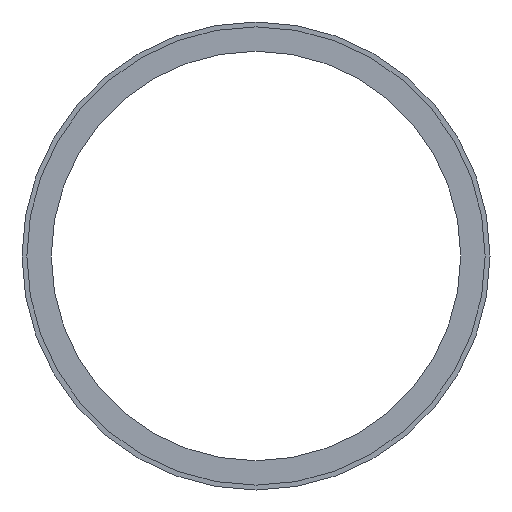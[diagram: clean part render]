
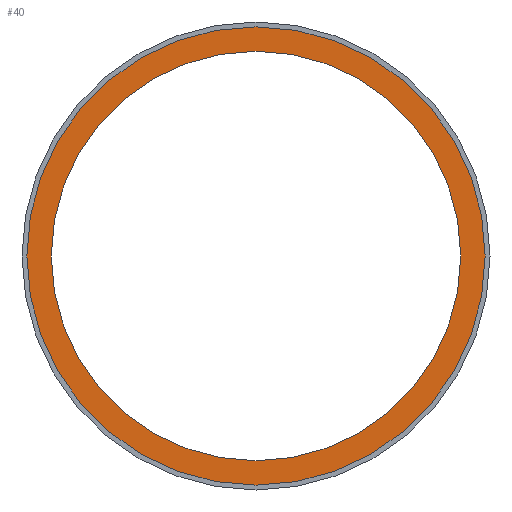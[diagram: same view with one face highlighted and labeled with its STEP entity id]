
A CAD part, front view. The second image highlights one B-rep face of the part: STEP entity #40.
In plain terms, the highlighted planar face has unit normal (0, -1, 0).
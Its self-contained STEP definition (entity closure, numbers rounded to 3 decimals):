
#40 = ADVANCED_FACE( '', ( #81, #82 ), #83, .F. );
#81 = FACE_OUTER_BOUND( '', #120, .T. );
#82 = FACE_BOUND( '', #121, .T. );
#83 = PLANE( '', #122 );
#120 = EDGE_LOOP( '', ( #161 ) );
#121 = EDGE_LOOP( '', ( #162 ) );
#122 = AXIS2_PLACEMENT_3D( '', #163, #164, #165 );
#161 = ORIENTED_EDGE( '', *, *, #191, .T. );
#162 = ORIENTED_EDGE( '', *, *, #186, .F. );
#163 = CARTESIAN_POINT( '', ( 0., 0., 24. ) );
#164 = DIRECTION( '', ( 0., 1., 0. ) );
#165 = DIRECTION( '', ( 0., 0., 1. ) );
#186 = EDGE_CURVE( '', #203, #203, #204, .T. );
#191 = EDGE_CURVE( '', #211, #211, #212, .T. );
#203 = VERTEX_POINT( '', #227 );
#204 = CIRCLE( '', #228, 21. );
#211 = VERTEX_POINT( '', #235 );
#212 = CIRCLE( '', #236, 23.5 );
#227 = CARTESIAN_POINT( '', ( 0., 0., -21. ) );
#228 = AXIS2_PLACEMENT_3D( '', #251, #252, #253 );
#235 = CARTESIAN_POINT( '', ( 0., 0., -23.5 ) );
#236 = AXIS2_PLACEMENT_3D( '', #260, #261, #262 );
#251 = CARTESIAN_POINT( '', ( 0., 0., 0. ) );
#252 = DIRECTION( '', ( 0., -1., 0. ) );
#253 = DIRECTION( '', ( 0., 0., -1. ) );
#260 = CARTESIAN_POINT( '', ( 0., 0., 0. ) );
#261 = DIRECTION( '', ( 0., -1., 0. ) );
#262 = DIRECTION( '', ( 0., 0., -1. ) );
